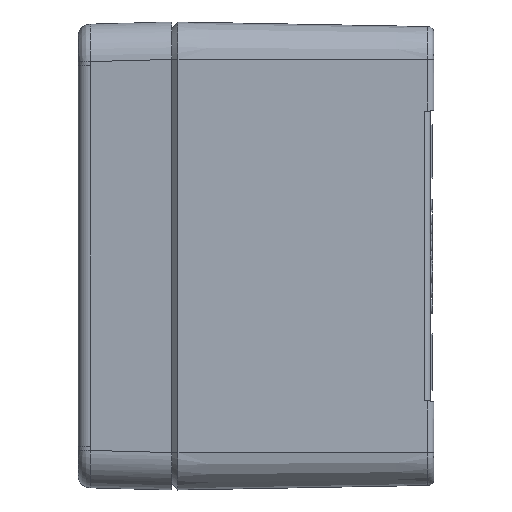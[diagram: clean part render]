
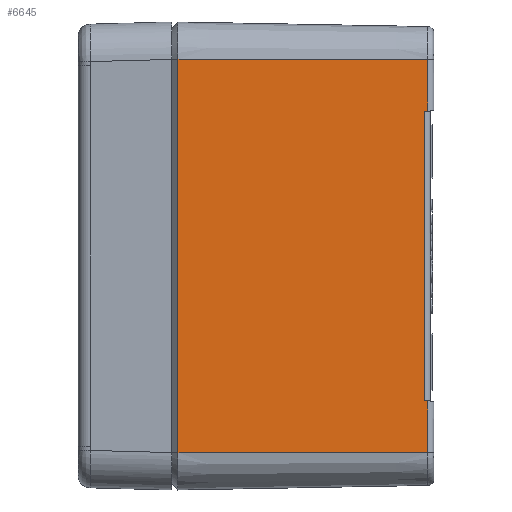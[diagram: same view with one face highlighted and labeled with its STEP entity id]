
A CAD part, left-side view. The second image highlights one B-rep face of the part: STEP entity #6645.
In plain terms, the highlighted planar face has unit normal (-1, -0.018, 0).
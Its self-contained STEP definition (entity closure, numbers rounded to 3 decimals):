
#734 = VECTOR ( 'NONE', #28158, 1000. ) ;
#1203 = EDGE_CURVE ( 'NONE', #40235, #31733, #13397, .T. ) ;
#2089 = CARTESIAN_POINT ( 'NONE',  ( -40., 20., -65.351 ) ) ;
#3252 = EDGE_CURVE ( 'NONE', #3886, #35202, #8428, .T. ) ;
#3619 = VECTOR ( 'NONE', #25491, 1000. ) ;
#3886 = VERTEX_POINT ( 'NONE', #38875 ) ;
#4016 = CARTESIAN_POINT ( 'NONE',  ( -39.268, -20.018, -31.5 ) ) ;
#4018 = ORIENTED_EDGE ( 'NONE', *, *, #21550, .T. ) ;
#5290 = PLANE ( 'NONE',  #22306 ) ;
#5711 = FACE_OUTER_BOUND ( 'NONE', #6087, .T. ) ;
#5993 = CARTESIAN_POINT ( 'NONE',  ( -39.268, -20.018, 23.219 ) ) ;
#6087 = EDGE_LOOP ( 'NONE', ( #21484, #33584, #4018, #19332, #27787, #6871, #8321, #33588 ) ) ;
#6645 = ADVANCED_FACE ( 'NONE', ( #5711 ), #5290, .T. ) ;
#6871 = ORIENTED_EDGE ( 'NONE', *, *, #3252, .T. ) ;
#6995 = CARTESIAN_POINT ( 'NONE',  ( -39.268, -20.018, -23.219 ) ) ;
#7074 = DIRECTION ( 'NONE',  ( -0.018, 0.998, 0.052 ) ) ;
#8093 = CARTESIAN_POINT ( 'NONE',  ( -40., 20., 31.5 ) ) ;
#8321 = ORIENTED_EDGE ( 'NONE', *, *, #33297, .T. ) ;
#8428 = LINE ( 'NONE', #14593, #39306 ) ;
#8707 = LINE ( 'NONE', #8093, #40577 ) ;
#8853 = CARTESIAN_POINT ( 'NONE',  ( -39.277, -19.518, -238.64 ) ) ;
#10516 = CARTESIAN_POINT ( 'NONE',  ( -39.277, -19.518, 23.192 ) ) ;
#13397 = LINE ( 'NONE', #22314, #3619 ) ;
#14593 = CARTESIAN_POINT ( 'NONE',  ( -40., 20., -65.351 ) ) ;
#14834 = VECTOR ( 'NONE', #29895, 1000. ) ;
#15017 = LINE ( 'NONE', #8853, #734 ) ;
#15056 = DIRECTION ( 'NONE',  ( 0.018, -1., 0. ) ) ;
#17178 = LINE ( 'NONE', #23099, #14834 ) ;
#17352 = VERTEX_POINT ( 'NONE', #6995 ) ;
#18651 = DIRECTION ( 'NONE',  ( -1., -0.018, 0. ) ) ;
#19332 = ORIENTED_EDGE ( 'NONE', *, *, #1203, .T. ) ;
#20368 = CARTESIAN_POINT ( 'NONE',  ( -40., 20., -31.5 ) ) ;
#20586 = EDGE_CURVE ( 'NONE', #29959, #40431, #15017, .T. ) ;
#21484 = ORIENTED_EDGE ( 'NONE', *, *, #38182, .T. ) ;
#21550 = EDGE_CURVE ( 'NONE', #29959, #40235, #29819, .T. ) ;
#22306 = AXIS2_PLACEMENT_3D ( 'NONE', #2089, #18651, #15056 ) ;
#22314 = CARTESIAN_POINT ( 'NONE',  ( -39.268, -20.018, -65.351 ) ) ;
#23099 = CARTESIAN_POINT ( 'NONE',  ( -40., 20., -31.5 ) ) ;
#23934 = DIRECTION ( 'NONE',  ( 0., 0., -1. ) ) ;
#24007 = DIRECTION ( 'NONE',  ( -0.018, 1., 0. ) ) ;
#25491 = DIRECTION ( 'NONE',  ( 0., 0., 1. ) ) ;
#26201 = VECTOR ( 'NONE', #7074, 1000. ) ;
#27177 = CARTESIAN_POINT ( 'NONE',  ( -39.277, -19.518, -23.192 ) ) ;
#27787 = ORIENTED_EDGE ( 'NONE', *, *, #34013, .T. ) ;
#28158 = DIRECTION ( 'NONE',  ( 0., 0., -1. ) ) ;
#29819 = LINE ( 'NONE', #10516, #29962 ) ;
#29895 = DIRECTION ( 'NONE',  ( 0.018, -1., 0. ) ) ;
#29959 = VERTEX_POINT ( 'NONE', #31918 ) ;
#29962 = VECTOR ( 'NONE', #33206, 1000. ) ;
#30792 = DIRECTION ( 'NONE',  ( 0., 0., 1. ) ) ;
#30992 = VECTOR ( 'NONE', #30792, 1000. ) ;
#31408 = EDGE_CURVE ( 'NONE', #34324, #17352, #40154, .T. ) ;
#31733 = VERTEX_POINT ( 'NONE', #34543 ) ;
#31918 = CARTESIAN_POINT ( 'NONE',  ( -39.277, -19.518, 23.192 ) ) ;
#33206 = DIRECTION ( 'NONE',  ( 0.018, -0.998, 0.052 ) ) ;
#33297 = EDGE_CURVE ( 'NONE', #35202, #34324, #17178, .T. ) ;
#33356 = CARTESIAN_POINT ( 'NONE',  ( -39.268, -20.018, -65.351 ) ) ;
#33584 = ORIENTED_EDGE ( 'NONE', *, *, #20586, .F. ) ;
#33588 = ORIENTED_EDGE ( 'NONE', *, *, #31408, .T. ) ;
#34013 = EDGE_CURVE ( 'NONE', #31733, #3886, #8707, .T. ) ;
#34324 = VERTEX_POINT ( 'NONE', #4016 ) ;
#34543 = CARTESIAN_POINT ( 'NONE',  ( -39.268, -20.018, 31.5 ) ) ;
#35202 = VERTEX_POINT ( 'NONE', #20368 ) ;
#35294 = CARTESIAN_POINT ( 'NONE',  ( -39.268, -20.018, -23.219 ) ) ;
#36143 = LINE ( 'NONE', #35294, #26201 ) ;
#38182 = EDGE_CURVE ( 'NONE', #17352, #40431, #36143, .T. ) ;
#38875 = CARTESIAN_POINT ( 'NONE',  ( -40., 20., 31.5 ) ) ;
#39306 = VECTOR ( 'NONE', #23934, 1000. ) ;
#40154 = LINE ( 'NONE', #33356, #30992 ) ;
#40235 = VERTEX_POINT ( 'NONE', #5993 ) ;
#40431 = VERTEX_POINT ( 'NONE', #27177 ) ;
#40577 = VECTOR ( 'NONE', #24007, 1000. ) ;
